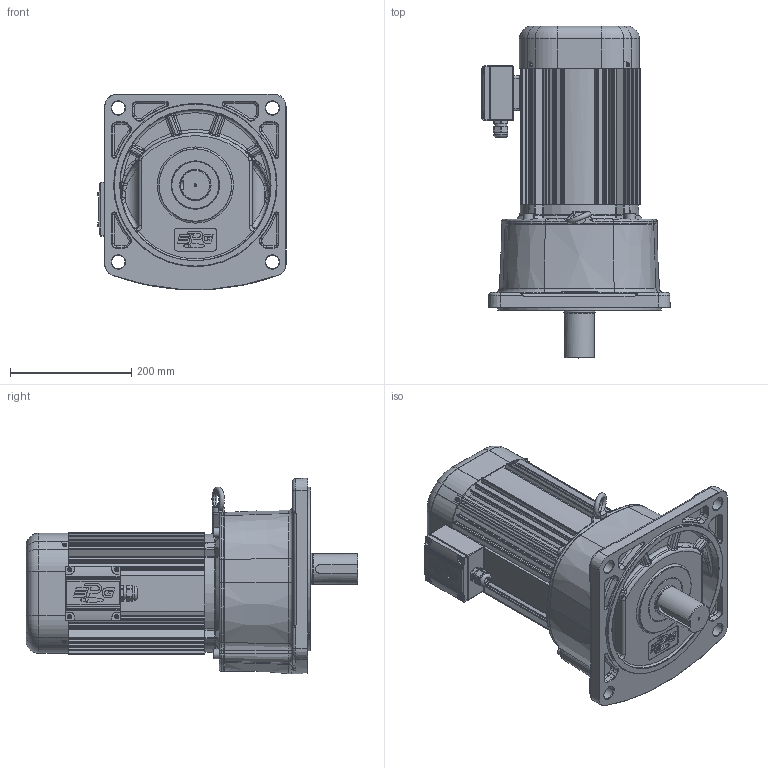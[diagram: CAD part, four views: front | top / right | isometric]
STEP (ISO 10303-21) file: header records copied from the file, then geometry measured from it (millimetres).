
FILE_DESCRIPTION(/* description */ (''),/* implementation_level */ '2;1');
FILE_NAME(/* name */ 'Z:\동력 3D 파일\PAF50_2.2kW_3D.stp',/* time_stamp */ '2021-11-08T16:16:10+09:00',/* author */ ('jaebok'),/* organization */ (''),/* preprocessor_version */ 'ST-DEVELOPER v18.1',/* originating_system */ 'Autodesk Inventor 2022',/* authorisation */ '');
FILE_SCHEMA (('AUTOMOTIVE_DESIGN { 1 0 10303 214 3 1 1 }'));
Products named in the file (1): 부품25
Bounding box: 310.96 x 548.5 x 322.9 mm (x, y, z)
Volume: 6418584.4 mm3; surface area: 1434927 mm2
Topology: 1 solids, 32 shells, 3799 faces, 9441 edges, 5618 vertices
Faces by surface type: plane 1109, bspline 1005, cylinder 909, torus 379, cone 293, sphere 104
Full cylindrical faces by diameter (mm): 2.5 x2, 3.25 x1, 3.5 x4, 3.6 x4, 4 x21, 5 x13, 6 x5, 6.647 x5, 7 x8, 8 x4, 8.376 x4, 8.8 x1, 9 x4, 10 x5, 11 x4, 12.5 x1, 15 x1, 16 x4, 20 x2, 21 x1, 22 x4, 23.5 x1, 23.6 x1, 25 x2, 31 x1, 35.8 x1, 36 x2, 48 x1, 49.8 x2, 50 x3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
Entity records: 146272 total; most frequent: CARTESIAN_POINT 58196, ORIENTED_EDGE 18520, DIRECTION 16535, EDGE_CURVE 9260, AXIS2_PLACEMENT_3D 6771, VERTEX_POINT 5618, EDGE_LOOP 4028, CIRCLE 3857
